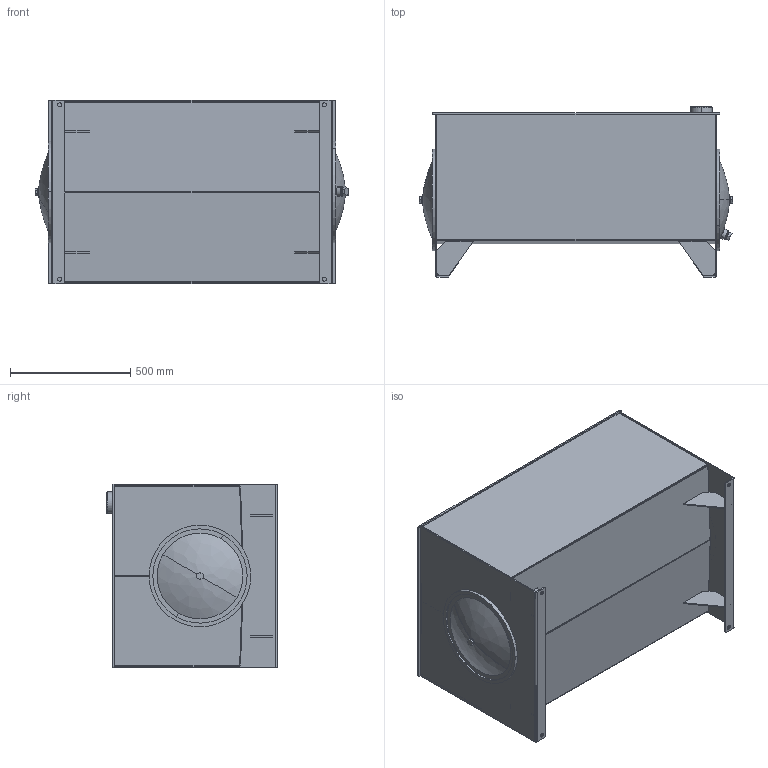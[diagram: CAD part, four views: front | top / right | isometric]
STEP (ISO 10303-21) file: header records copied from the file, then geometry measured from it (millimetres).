
FILE_DESCRIPTION (( 'STEP AP214' ), '1' );
FILE_NAME ('T2-80.STEP', '2019-08-27T11:10:50', ( '' ), ( '' ), 'SwSTEP 2.0', 'SolidWorks 2013', '' );
FILE_SCHEMA (( 'AUTOMOTIVE_DESIGN' ));
Length unit declared in the file: inch
Products named in the file (17): FILLER RISER; T2-80-GST; T2-80-BFL; T2-80-BDY; T2-80-EB; T2-80-EA; T2-80-LD; T2-80; TL-EC-16; 16.00 END COVER; TL-ECD-16; DRAIN; 16.00 END COVER WITH DRAIN; 0.625 - 11 BAFFLE NUT; 0.625 - 11 HEX BOLT; CRUSH WASHER; 16.00 GASKET
Assembly tree (23 placements, depth 3):
  T2-80
    T2-80-LD
    T2-80-EA
    T2-80-EB
    T2-80-BDY
    T2-80-BFL
    T2-80-GST  x4
    FILLER RISER
    TL-ECD-16
      16.00 GASKET
      CRUSH WASHER
      0.625 - 11 HEX BOLT
      0.625 - 11 BAFFLE NUT
      16.00 END COVER WITH DRAIN
      DRAIN
    TL-EC-16
      16.00 END COVER
      16.00 GASKET
      CRUSH WASHER
      0.625 - 11 HEX BOLT
      0.625 - 11 BAFFLE NUT
Bounding box: 1303.01 x 708.02 x 762 mm (x, y, z)
Volume: 21062865.8 mm3; surface area: 9977856.2 mm2
Topology: 22 solids, 22 shells, 294 faces, 676 edges, 434 vertices
Faces by surface type: plane 165, cylinder 109, cone 10, bspline 8, torus 2
Entity records: 8553 total; most frequent: CARTESIAN_POINT 1469, DIRECTION 1242, ORIENTED_EDGE 1076, EDGE_CURVE 538, AXIS2_PLACEMENT_3D 465, VERTEX_POINT 342, LINE 312, VECTOR 312
